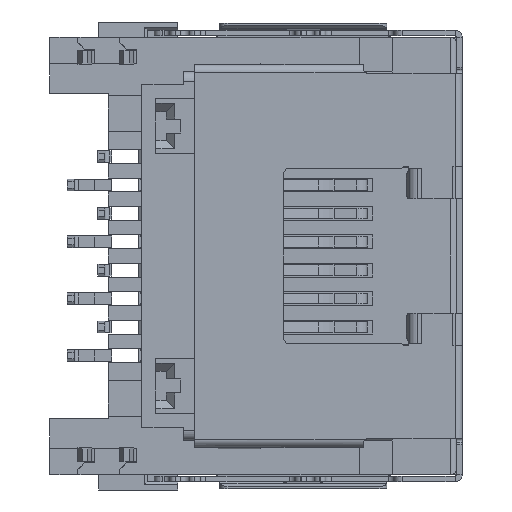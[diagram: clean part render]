
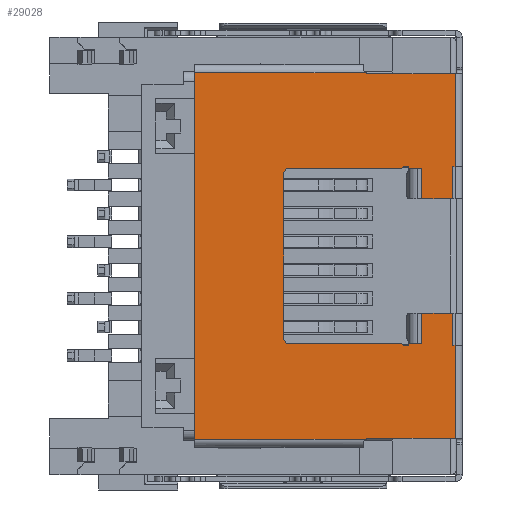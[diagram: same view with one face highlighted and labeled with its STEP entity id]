
A CAD part, front view. The second image highlights one B-rep face of the part: STEP entity #29028.
In plain terms, the highlighted planar face has unit normal (0, -1, 0).
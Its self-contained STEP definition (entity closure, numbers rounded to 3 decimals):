
#6414=CARTESIAN_POINT('',(-3.15,-9.85,-6.75));
#6415=DIRECTION('',(0.,-1.,0.));
#6416=DIRECTION('',(0.,0.,1.));
#6417=AXIS2_PLACEMENT_3D('',#6414,#6415,#6416);
#6419=CARTESIAN_POINT('',(-3.15,-9.85,6.75));
#6420=DIRECTION('',(0.,-1.,0.));
#6421=DIRECTION('',(-0.484,0.,-0.875));
#6422=AXIS2_PLACEMENT_3D('',#6419,#6420,#6421);
#6424=DIRECTION('',(0.,0.,-1.));
#6425=VECTOR('',#6424,3.35);
#6426=CARTESIAN_POINT('',(-0.05,-9.85,6.55));
#6427=LINE('',#6426,#6425);
#6428=DIRECTION('',(-1.,0.,0.));
#6429=VECTOR('',#6428,0.1);
#6430=CARTESIAN_POINT('',(-0.05,-9.85,3.2));
#6431=LINE('',#6430,#6429);
#6432=CARTESIAN_POINT('',(-1.822,-9.85,3.1));
#6433=DIRECTION('',(0.,-1.,0.));
#6434=DIRECTION('',(0.923,0.,0.385));
#6435=AXIS2_PLACEMENT_3D('',#6432,#6433,#6434);
#6437=CARTESIAN_POINT('',(-2.037,-9.85,3.35));
#6438=DIRECTION('',(0.,1.,0.));
#6439=DIRECTION('',(0.653,0.,-0.758));
#6440=AXIS2_PLACEMENT_3D('',#6437,#6438,#6439);
#6442=CARTESIAN_POINT('',(-6.,-9.85,2.95));
#6443=DIRECTION('',(0.,-1.,0.));
#6444=DIRECTION('',(0.,0.,1.));
#6445=AXIS2_PLACEMENT_3D('',#6442,#6443,#6444);
#6447=CARTESIAN_POINT('',(-6.,-9.85,-2.95));
#6448=DIRECTION('',(0.,-1.,0.));
#6449=DIRECTION('',(-1.,0.,0.));
#6450=AXIS2_PLACEMENT_3D('',#6447,#6448,#6449);
#6452=CARTESIAN_POINT('',(-2.037,-9.85,-3.35));
#6453=DIRECTION('',(0.,1.,0.));
#6454=DIRECTION('',(0.,0.,1.));
#6455=AXIS2_PLACEMENT_3D('',#6452,#6453,#6454);
#6457=CARTESIAN_POINT('',(-1.822,-9.85,-3.1));
#6458=DIRECTION('',(0.,-1.,0.));
#6459=DIRECTION('',(-0.653,0.,-0.758));
#6460=AXIS2_PLACEMENT_3D('',#6457,#6458,#6459);
#6462=DIRECTION('',(1.,0.,0.));
#6463=VECTOR('',#6462,3.1);
#6464=CARTESIAN_POINT('',(-3.15,-9.85,-6.55));
#6465=LINE('',#6464,#6463);
#6470=DIRECTION('',(1.,0.,0.));
#6471=VECTOR('',#6470,6.153);
#6472=CARTESIAN_POINT('',(-9.4,-9.85,-6.575));
#6473=LINE('',#6472,#6471);
#6552=DIRECTION('',(0.,0.,-1.));
#6553=VECTOR('',#6552,13.1);
#6554=CARTESIAN_POINT('',(-9.4,-9.85,6.55));
#6555=LINE('',#6554,#6553);
#6560=DIRECTION('',(0.,0.,-1.));
#6561=VECTOR('',#6560,0.025);
#6562=CARTESIAN_POINT('',(-9.4,-9.85,-6.55));
#6563=LINE('',#6562,#6561);
#15722=DIRECTION('',(-1.,0.,0.));
#15723=VECTOR('',#15722,6.153);
#15724=CARTESIAN_POINT('',(-3.247,-9.85,6.575));
#15725=LINE('',#15724,#15723);
#15764=DIRECTION('',(-1.,0.,0.));
#15765=VECTOR('',#15764,3.1);
#15766=CARTESIAN_POINT('',(-0.05,-9.85,6.55));
#15767=LINE('',#15766,#15765);
#15997=DIRECTION('',(0.,0.,-1.));
#15998=VECTOR('',#15997,0.025);
#15999=CARTESIAN_POINT('',(-9.4,-9.85,6.575));
#16000=LINE('',#15999,#15998);
#17836=DIRECTION('',(0.,0.,1.));
#17837=VECTOR('',#17836,3.35);
#17838=CARTESIAN_POINT('',(-0.05,-9.85,-6.55));
#17839=LINE('',#17838,#17837);
#17883=DIRECTION('',(-1.,0.,0.));
#17884=VECTOR('',#17883,0.1);
#17885=CARTESIAN_POINT('',(-0.05,-9.85,-3.2));
#17886=LINE('',#17885,#17884);
#17903=DIRECTION('',(0.,0.,1.));
#17904=VECTOR('',#17903,1.15);
#17905=CARTESIAN_POINT('',(-0.15,-9.85,-3.2));
#17906=LINE('',#17905,#17904);
#17911=DIRECTION('',(-1.,0.,0.));
#17912=VECTOR('',#17911,1.1);
#17913=CARTESIAN_POINT('',(-0.15,-9.85,-2.05));
#17914=LINE('',#17913,#17912);
#17931=DIRECTION('',(0.,0.,-1.));
#17932=VECTOR('',#17931,1.1);
#17933=CARTESIAN_POINT('',(-1.25,-9.85,-2.05));
#17934=LINE('',#17933,#17932);
#17947=DIRECTION('',(-1.,0.,0.));
#17948=VECTOR('',#17947,0.452);
#17949=CARTESIAN_POINT('',(-1.25,-9.85,-3.15));
#17950=LINE('',#17949,#17948);
#17967=DIRECTION('',(-1.,0.,0.));
#17968=VECTOR('',#17967,3.963);
#17969=CARTESIAN_POINT('',(-2.037,-9.85,-3.15));
#17970=LINE('',#17969,#17968);
#17979=DIRECTION('',(0.,0.,1.));
#17980=VECTOR('',#17979,5.9);
#17981=CARTESIAN_POINT('',(-6.2,-9.85,-2.95));
#17982=LINE('',#17981,#17980);
#17995=DIRECTION('',(1.,0.,0.));
#17996=VECTOR('',#17995,3.963);
#17997=CARTESIAN_POINT('',(-6.,-9.85,3.15));
#17998=LINE('',#17997,#17996);
#18015=DIRECTION('',(1.,0.,0.));
#18016=VECTOR('',#18015,0.452);
#18017=CARTESIAN_POINT('',(-1.702,-9.85,3.15));
#18018=LINE('',#18017,#18016);
#18031=DIRECTION('',(0.,0.,-1.));
#18032=VECTOR('',#18031,1.1);
#18033=CARTESIAN_POINT('',(-1.25,-9.85,3.15));
#18034=LINE('',#18033,#18032);
#18039=DIRECTION('',(1.,0.,0.));
#18040=VECTOR('',#18039,1.1);
#18041=CARTESIAN_POINT('',(-1.25,-9.85,2.05));
#18042=LINE('',#18041,#18040);
#18059=DIRECTION('',(0.,0.,1.));
#18060=VECTOR('',#18059,1.15);
#18061=CARTESIAN_POINT('',(-0.15,-9.85,2.05));
#18062=LINE('',#18061,#18060);
#21642=CARTESIAN_POINT('',(-0.05,-9.85,6.55));
#21643=CARTESIAN_POINT('',(-0.05,-9.85,3.2));
#21644=VERTEX_POINT('',#21642);
#21645=VERTEX_POINT('',#21643);
#21646=CARTESIAN_POINT('',(-3.15,-9.85,-6.55));
#21647=CARTESIAN_POINT('',(-0.05,-9.85,-6.55));
#21648=VERTEX_POINT('',#21646);
#21649=VERTEX_POINT('',#21647);
#21650=CARTESIAN_POINT('',(-3.247,-9.85,-6.575));
#21651=VERTEX_POINT('',#21650);
#21652=CARTESIAN_POINT('',(-9.4,-9.85,-6.55));
#21653=CARTESIAN_POINT('',(-9.4,-9.85,-6.575));
#21654=VERTEX_POINT('',#21652);
#21655=VERTEX_POINT('',#21653);
#21656=CARTESIAN_POINT('',(-9.4,-9.85,6.55));
#21657=VERTEX_POINT('',#21656);
#21658=CARTESIAN_POINT('',(-9.4,-9.85,6.575));
#21659=VERTEX_POINT('',#21658);
#21660=CARTESIAN_POINT('',(-3.247,-9.85,6.575));
#21661=CARTESIAN_POINT('',(-3.15,-9.85,6.55));
#21662=VERTEX_POINT('',#21660);
#21663=VERTEX_POINT('',#21661);
#21664=CARTESIAN_POINT('',(-0.15,-9.85,3.2));
#21665=VERTEX_POINT('',#21664);
#21666=CARTESIAN_POINT('',(-0.15,-9.85,2.05));
#21667=VERTEX_POINT('',#21666);
#21668=CARTESIAN_POINT('',(-1.25,-9.85,2.05));
#21669=VERTEX_POINT('',#21668);
#21670=CARTESIAN_POINT('',(-1.25,-9.85,3.15));
#21671=VERTEX_POINT('',#21670);
#21672=CARTESIAN_POINT('',(-1.702,-9.85,3.15));
#21673=VERTEX_POINT('',#21672);
#21674=CARTESIAN_POINT('',(-1.907,-9.85,3.198));
#21675=VERTEX_POINT('',#21674);
#21676=CARTESIAN_POINT('',(-2.037,-9.85,3.15));
#21677=VERTEX_POINT('',#21676);
#21678=CARTESIAN_POINT('',(-6.,-9.85,3.15));
#21679=VERTEX_POINT('',#21678);
#21680=CARTESIAN_POINT('',(-6.2,-9.85,2.95));
#21681=VERTEX_POINT('',#21680);
#21682=CARTESIAN_POINT('',(-6.2,-9.85,-2.95));
#21683=VERTEX_POINT('',#21682);
#21684=CARTESIAN_POINT('',(-6.,-9.85,-3.15));
#21685=VERTEX_POINT('',#21684);
#21686=CARTESIAN_POINT('',(-2.037,-9.85,-3.15));
#21687=VERTEX_POINT('',#21686);
#21688=CARTESIAN_POINT('',(-1.907,-9.85,-3.198));
#21689=VERTEX_POINT('',#21688);
#21690=CARTESIAN_POINT('',(-1.702,-9.85,-3.15));
#21691=VERTEX_POINT('',#21690);
#21692=CARTESIAN_POINT('',(-1.25,-9.85,-3.15));
#21693=VERTEX_POINT('',#21692);
#21694=CARTESIAN_POINT('',(-1.25,-9.85,-2.05));
#21695=VERTEX_POINT('',#21694);
#21696=CARTESIAN_POINT('',(-0.15,-9.85,-2.05));
#21697=VERTEX_POINT('',#21696);
#21698=CARTESIAN_POINT('',(-0.15,-9.85,-3.2));
#21699=VERTEX_POINT('',#21698);
#21700=CARTESIAN_POINT('',(-0.05,-9.85,-3.2));
#21701=VERTEX_POINT('',#21700);
#28963=CARTESIAN_POINT('',(-4.725,-9.85,0.));
#28964=DIRECTION('',(0.,1.,0.));
#28965=DIRECTION('',(-1.,0.,0.));
#28966=AXIS2_PLACEMENT_3D('',#28963,#28964,#28965);
#28967=PLANE('',#28966);
#28969=ORIENTED_EDGE('',*,*,#28968,.F.);
#28971=ORIENTED_EDGE('',*,*,#28970,.T.);
#28973=ORIENTED_EDGE('',*,*,#28972,.F.);
#28975=ORIENTED_EDGE('',*,*,#28974,.F.);
#28977=ORIENTED_EDGE('',*,*,#28976,.F.);
#28979=ORIENTED_EDGE('',*,*,#28978,.F.);
#28981=ORIENTED_EDGE('',*,*,#28980,.F.);
#28983=ORIENTED_EDGE('',*,*,#28982,.T.);
#28985=ORIENTED_EDGE('',*,*,#28984,.F.);
#28986=ORIENTED_EDGE('',*,*,#28867,.T.);
#28987=ORIENTED_EDGE('',*,*,#28953,.T.);
#28989=ORIENTED_EDGE('',*,*,#28988,.F.);
#28991=ORIENTED_EDGE('',*,*,#28990,.F.);
#28993=ORIENTED_EDGE('',*,*,#28992,.F.);
#28995=ORIENTED_EDGE('',*,*,#28994,.F.);
#28997=ORIENTED_EDGE('',*,*,#28996,.T.);
#28999=ORIENTED_EDGE('',*,*,#28998,.T.);
#29001=ORIENTED_EDGE('',*,*,#29000,.F.);
#29003=ORIENTED_EDGE('',*,*,#29002,.T.);
#29005=ORIENTED_EDGE('',*,*,#29004,.F.);
#29007=ORIENTED_EDGE('',*,*,#29006,.T.);
#29009=ORIENTED_EDGE('',*,*,#29008,.F.);
#29011=ORIENTED_EDGE('',*,*,#29010,.T.);
#29013=ORIENTED_EDGE('',*,*,#29012,.T.);
#29015=ORIENTED_EDGE('',*,*,#29014,.F.);
#29017=ORIENTED_EDGE('',*,*,#29016,.F.);
#29019=ORIENTED_EDGE('',*,*,#29018,.F.);
#29021=ORIENTED_EDGE('',*,*,#29020,.F.);
#29023=ORIENTED_EDGE('',*,*,#29022,.F.);
#29025=ORIENTED_EDGE('',*,*,#29024,.F.);
#29026=EDGE_LOOP('',(#28969,#28971,#28973,#28975,#28977,#28979,#28981,#28983,
#28985,#28986,#28987,#28989,#28991,#28993,#28995,#28997,#28999,#29001,#29003,
#29005,#29007,#29009,#29011,#29013,#29015,#29017,#29019,#29021,#29023,#29025));
#29027=FACE_OUTER_BOUND('',#29026,.F.);
#29028=ADVANCED_FACE('',(#29027),#28967,.F.);
#6418=CIRCLE('',#6417,0.2);
#6423=CIRCLE('',#6422,0.2);
#6436=CIRCLE('',#6435,0.13);
#6441=CIRCLE('',#6440,0.2);
#6446=CIRCLE('',#6445,0.2);
#6451=CIRCLE('',#6450,0.2);
#6456=CIRCLE('',#6455,0.2);
#6461=CIRCLE('',#6460,0.13);
#28867=EDGE_CURVE('',#21644,#21645,#6427,.T.);
#28953=EDGE_CURVE('',#21645,#21665,#6431,.T.);
#28968=EDGE_CURVE('',#21648,#21649,#6465,.T.);
#28970=EDGE_CURVE('',#21648,#21651,#6418,.T.);
#28972=EDGE_CURVE('',#21655,#21651,#6473,.T.);
#28974=EDGE_CURVE('',#21654,#21655,#6563,.T.);
#28976=EDGE_CURVE('',#21657,#21654,#6555,.T.);
#28978=EDGE_CURVE('',#21659,#21657,#16000,.T.);
#28980=EDGE_CURVE('',#21662,#21659,#15725,.T.);
#28982=EDGE_CURVE('',#21662,#21663,#6423,.T.);
#28984=EDGE_CURVE('',#21644,#21663,#15767,.T.);
#28988=EDGE_CURVE('',#21667,#21665,#18062,.T.);
#28990=EDGE_CURVE('',#21669,#21667,#18042,.T.);
#28992=EDGE_CURVE('',#21671,#21669,#18034,.T.);
#28994=EDGE_CURVE('',#21673,#21671,#18018,.T.);
#28996=EDGE_CURVE('',#21673,#21675,#6436,.T.);
#28998=EDGE_CURVE('',#21675,#21677,#6441,.T.);
#29000=EDGE_CURVE('',#21679,#21677,#17998,.T.);
#29002=EDGE_CURVE('',#21679,#21681,#6446,.T.);
#29004=EDGE_CURVE('',#21683,#21681,#17982,.T.);
#29006=EDGE_CURVE('',#21683,#21685,#6451,.T.);
#29008=EDGE_CURVE('',#21687,#21685,#17970,.T.);
#29010=EDGE_CURVE('',#21687,#21689,#6456,.T.);
#29012=EDGE_CURVE('',#21689,#21691,#6461,.T.);
#29014=EDGE_CURVE('',#21693,#21691,#17950,.T.);
#29016=EDGE_CURVE('',#21695,#21693,#17934,.T.);
#29018=EDGE_CURVE('',#21697,#21695,#17914,.T.);
#29020=EDGE_CURVE('',#21699,#21697,#17906,.T.);
#29022=EDGE_CURVE('',#21701,#21699,#17886,.T.);
#29024=EDGE_CURVE('',#21649,#21701,#17839,.T.);
